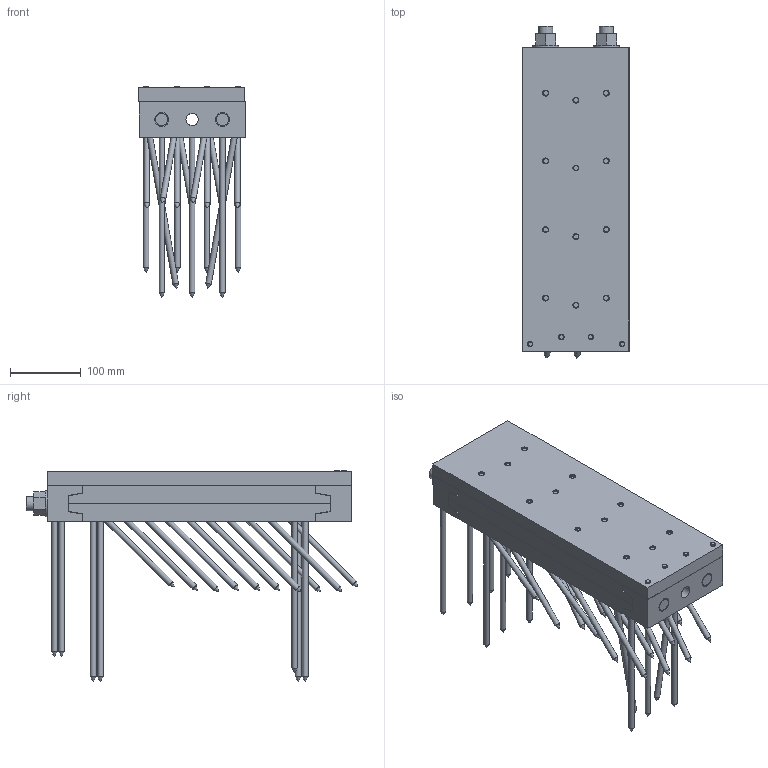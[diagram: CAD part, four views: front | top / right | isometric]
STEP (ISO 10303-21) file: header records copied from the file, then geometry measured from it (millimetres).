
FILE_DESCRIPTION(/* description */ ('Unknown'),/* implementation_level */ '2;1');
FILE_NAME(/* name */ 'MEGANT_430x150x50_Holz-Stahl-Anschluss_Sichtbar',/* time_stamp */ '2022-01-12T14:17:09+01:00',/* author */ ('Unknown'),/* organization */ ('Unknown'),/* preprocessor_version */ 'ST-DEVELOPER v16.7',/* originating_system */ 'Solid Edge',/* authorisation */ 'Unknown');
FILE_SCHEMA (('AUTOMOTIVE_DESIGN {1 0 10303 214 3 1 1}'));
Length unit declared in the file: millimetre
Products named in the file (18): MEGANT_430x150x50_Holz-Stahl-Anschluss_Sichtbar; Verbinderplatte_370x150x25_NT; SK_Schraube_8x240; Verbinderplatte_370x150x25; SK_Schraube_8x160; Verbinderplatte_370x150x25_HT_Stahl-Anschluss_12xM10x30 ; Verbinderplatte_370x150x25_Stahlanschluss_12xM10x30; SK_M10x30; Spannbacke_oben_150x50x50_NT; Spannbacke_oben_150x50x50; Spannbacke_unten_150x50x50_Stahl-Anschluss_4xSK_M8x70; Spannbacke_unten_150x50x50; SK_M8x70; Stahlplatte_150x430x20_12xM10_Bohrungen_4xM8; Gewindestange_M20_L460; Mutter_M20; Beilagscheibe_M20
Assembly tree (62 placements, depth 3):
  MEGANT_430x150x50_Holz-Stahl-Anschluss_Sichtbar
    Verbinderplatte_370x150x25_NT
      SK_Schraube_8x240  x8
      Verbinderplatte_370x150x25
      SK_Schraube_8x160  x20
    Verbinderplatte_370x150x25_HT_Stahl-Anschluss_12xM10x30 
      Verbinderplatte_370x150x25_Stahlanschluss_12xM10x30
      SK_M10x30  x12
    Spannbacke_oben_150x50x50_NT
      SK_Schraube_8x240  x4
      Spannbacke_oben_150x50x50
    Spannbacke_unten_150x50x50_Stahl-Anschluss_4xSK_M8x70
      Spannbacke_unten_150x50x50
      SK_M8x70  x4
    Stahlplatte_150x430x20_12xM10_Bohrungen_4xM8
    Gewindestange_M20_L460  x2
      Gewindestange_M20_L460
      Mutter_M20
      Beilagscheibe_M20
Bounding box: 150.25 x 469.49 x 299 mm (x, y, z)
Volume: 4373742.9 mm3; surface area: 866553 mm2
Topology: 59 solids, 59 shells, 734 faces, 1750 edges, 1118 vertices
Faces by surface type: cylinder 294, plane 274, cone 166
Full cylindrical faces by diameter (mm): 6.647 x8, 8 x36, 8.3 x4, 8.376 x24, 8.5 x58, 10 x12, 10.2 x12, 14 x4, 15 x90, 17.294 x5, 20 x26, 21 x5, 37 x2
Entity records: 13922 total; most frequent: DIRECTION 2324, CARTESIAN_POINT 2112, ORIENTED_EDGE 1744, FACE_BOUND 940, EDGE_LOOP 938, AXIS2_PLACEMENT_3D 918, EDGE_CURVE 872, VERTEX_POINT 706
